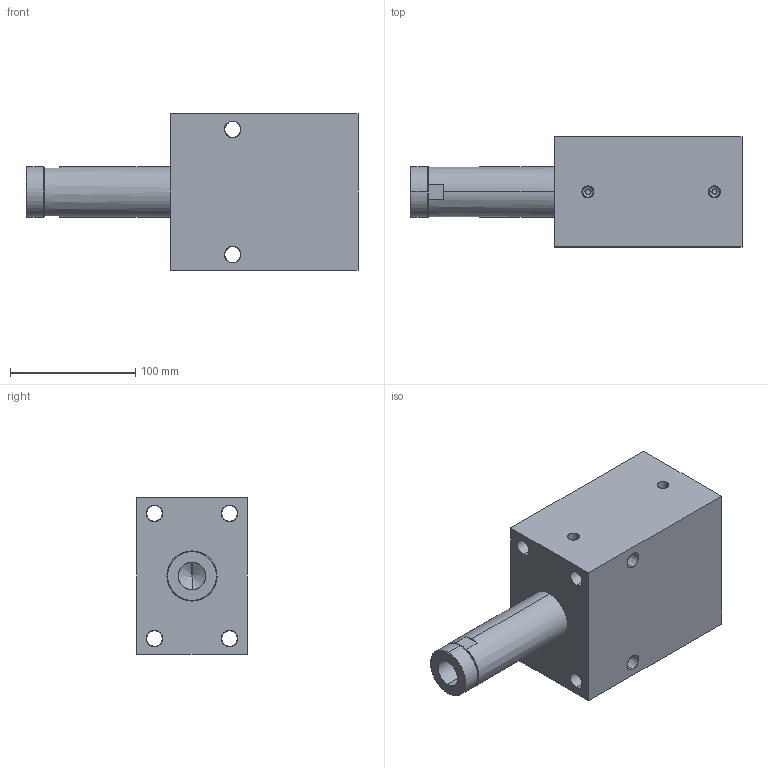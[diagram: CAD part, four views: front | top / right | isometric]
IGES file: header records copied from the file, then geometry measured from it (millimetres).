
Start section: SolidWorks IGES file using analytic representation for surfaces
Global section: file name: C:\Documents and Settings\rajib\Desktop\Rajib\BLOCK CYLINDER HYDRAULIC\0601-0606\IGS 0601-0608\0608.IGS; native system: SolidWorks 2007; preprocessor: SolidWorks 2007; author: rajib; date: 110121.105801; units: millimetre
Bounding box: 265 x 88 x 125 mm (x, y, z)
Surface area: 135544 mm2 (no closed solid volume)
Topology: 0 solids, 0 shells, 80 faces, 1904 edges, 1902 vertices
Faces by surface type: revolution 58, bspline 22
